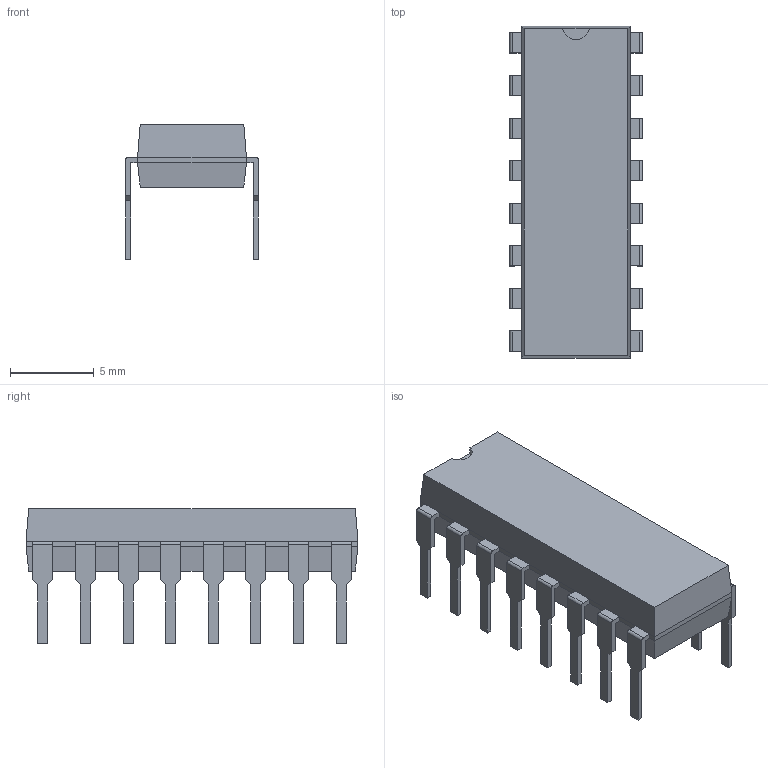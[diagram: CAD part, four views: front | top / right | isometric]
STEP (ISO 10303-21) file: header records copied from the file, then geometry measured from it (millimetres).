
FILE_DESCRIPTION(('FreeCAD Model'),'2;1');
FILE_NAME('/var/www/3D/0T/1574989.1.1.stp','2020-04-10T08:37:58',( 'Author'),(''),'Open CASCADE STEP processor 6.9','FreeCAD','Unknown' );
FILE_SCHEMA(('AUTOMOTIVE_DESIGN { 1 0 10303 214 1 1 1 1 }'));
Length unit declared in the file: millimetre
Products named in the file (3): ASSEMBLY; Body; PinsArrayLR
Assembly tree (2 placements, depth 2):
  ASSEMBLY
    Body
    PinsArrayLR
Bounding box: 7.92 x 19.8 x 8.05 mm (x, y, z)
Volume: 492 mm3; surface area: 685.4 mm2
Topology: 17 solids, 17 shells, 224 faces, 562 edges, 372 vertices
Faces by surface type: plane 207, cylinder 17
Entity records: 14113 total; most frequent: CARTESIAN_POINT 2399, DIRECTION 2156, LINE 1610, VECTOR 1610, ORIENTED_EDGE 1124, PCURVE 1124, DEFINITIONAL_REPRESENTATION 1124, EDGE_CURVE 562
